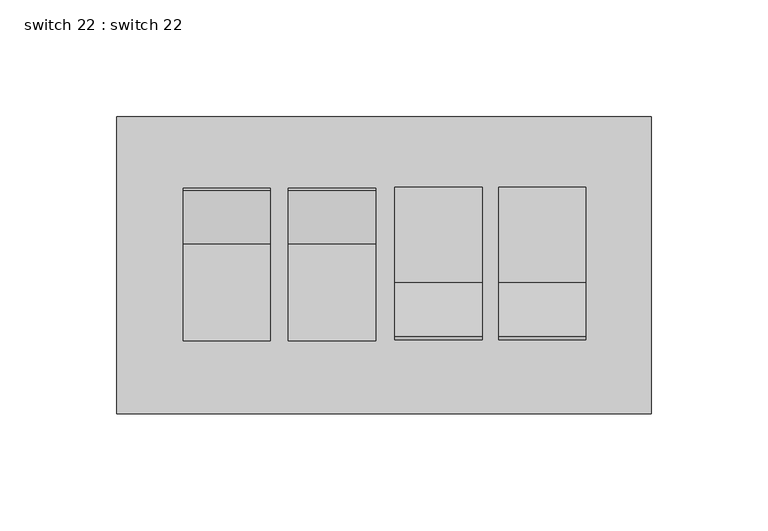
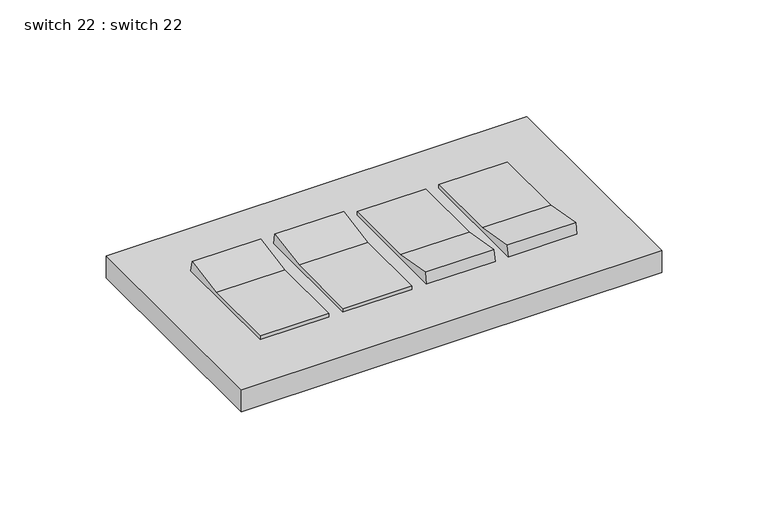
"""IFC4 building model written with IfcOpenShell, lengths in millimetres: proxy geometry, switch 22 : switch 22."""

from ifc_helpers import new_model, si_unit, frame, origin, origin_with_axes, place, context, project, spatial, polyline, outline, extrude, source, transform, mapped, element, save


def switch_22_switch_22_35867e67(model_context):
    return source(origin(), model_context, "Body", "SweptSolid", [
        extrude(outline(polyline([(31.6288025, 12.7), (32.810114, 18.7773207), (56.1625187, 14.659122), (96.8606731, 14.659122), (96.8606731, 12.7), (31.6288025, 12.7)])), frame((49.0623906, 0.0, 0.0), z_axis=(1.0, 0.0, 0.0), x_axis=(0.0, 1.0, 0.0)), (0.0, 0.0, 1.0), 37.3100457),
        extrude(outline(polyline([(31.6288025, 12.7), (32.810114, 18.7773207), (56.1625187, 14.659122), (96.8606731, 14.659122), (96.8606731, 12.7), (31.6288025, 12.7)])), frame((4.6873906, 0.0, 0.0), z_axis=(1.0, 0.0, 0.0), x_axis=(0.0, 1.0, 0.0)), (0.0, 0.0, 1.0), 37.3100457),
        extrude(outline(polyline([(96.4776637, 12.7), (31.2457931, 12.7), (31.2457931, 14.659122), (72.5494892, 14.659122), (95.3164216, 18.6740726), (96.4776637, 12.7)])), frame((-40.924562, 0.0, 0.0), z_axis=(1.0, 0.0, 0.0), x_axis=(0.0, 1.0, 0.0)), (0.0, 0.0, 1.0), 37.3100457),
        extrude(outline(polyline([(96.4776637, 12.7), (31.2457931, 12.7), (31.2457931, 14.659122), (72.5494892, 14.659122), (95.3164216, 18.6740726), (96.4776637, 12.7)])), frame((-85.924562, 0.0, 0.0), z_axis=(1.0, 0.0, 0.0), x_axis=(0.0, 1.0, 0.0)), (0.0, 0.0, 1.0), 37.3100457),
        extrude(outline(polyline([(-114.3, 0.0), (-114.3, 127.0), (114.3, 127.0), (114.3, 0.0), (-114.3, 0.0)])), origin_with_axes(), (0.0, 0.0, 1.0), 12.7),
    ])


if __name__ == "__main__":
    model = new_model("IFC4")
    model_context = context("Model", 3, world=origin())
    ifc_project = project(units=[si_unit("LENGTHUNIT", "METRE", prefix="MILLI")], contexts=[model_context])
    site = spatial("IfcSite", under=ifc_project)
    building = spatial("IfcBuilding", under=site)
    placement = place(None, origin())
    switch_22_switch_22_shape = switch_22_switch_22_35867e67(model_context)
    element("IfcBuildingElementProxy", 1, Name="switch 22 : switch 22", ObjectType="switch 22 : switch 22", at=placement, inside=building, context=model_context, shape_type="MappedRepresentation", body=[
        mapped(switch_22_switch_22_shape, transform((0.0, 0.0, 0.0), x_axis=(1.0, 0.0, 0.0), y_axis=(0.0, 1.0, 0.0), z_axis=(0.0, 0.0, 1.0))),
    ])
    save(model, "model.ifc")
